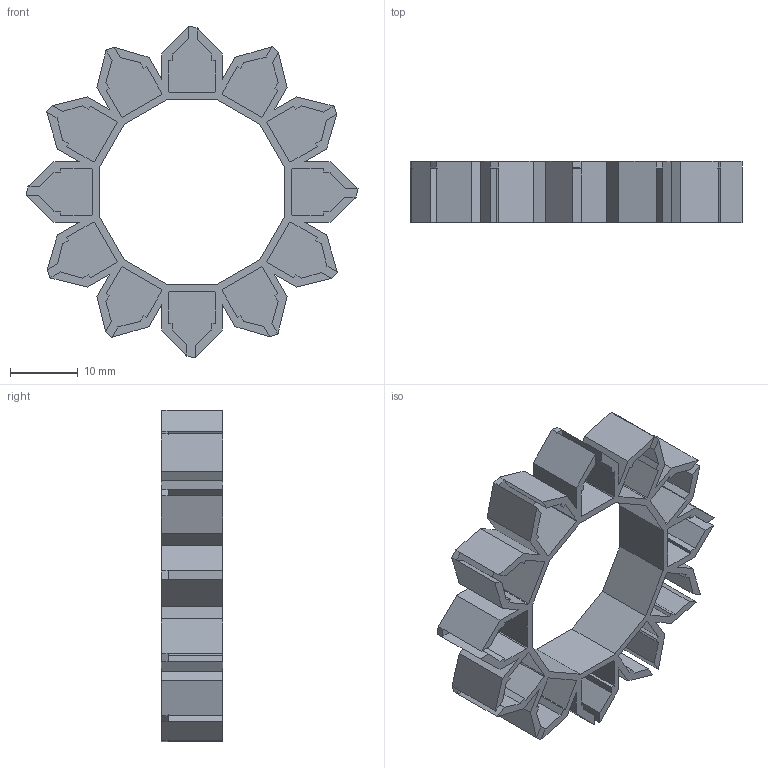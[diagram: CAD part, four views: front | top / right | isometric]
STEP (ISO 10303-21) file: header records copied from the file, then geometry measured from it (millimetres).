
FILE_DESCRIPTION(/* description */ (''),/* implementation_level */ '2;1');
FILE_NAME(/* name */ 'mrm-ir-finder3Enclosure v4.step',/* time_stamp */ '2024-03-15T08:47:00+01:00',/* author */ (''),/* organization */ (''),/* preprocessor_version */ 'ST-DEVELOPER v20',/* originating_system */ 'Autodesk Translation Framework v12.20.1.177',/* authorisation */ '');
FILE_SCHEMA (('AUTOMOTIVE_DESIGN { 1 0 10303 214 3 1 1 }'));
Length unit declared in the file: millimetre
Products named in the file (1): mrm-ir-finder3Enclosure
Bounding box: 48.94 x 9 x 48.94 mm (x, y, z)
Volume: 3720.2 mm3; surface area: 7459.1 mm2
Topology: 1 solids, 1 shells, 242 faces, 696 edges, 456 vertices
Faces by surface type: plane 242
Entity records: 7761 total; most frequent: CARTESIAN_POINT 1395, ORIENTED_EDGE 1392, DIRECTION 1182, LINE 696, VECTOR 696, EDGE_CURVE 696, VERTEX_POINT 456, EDGE_LOOP 244
